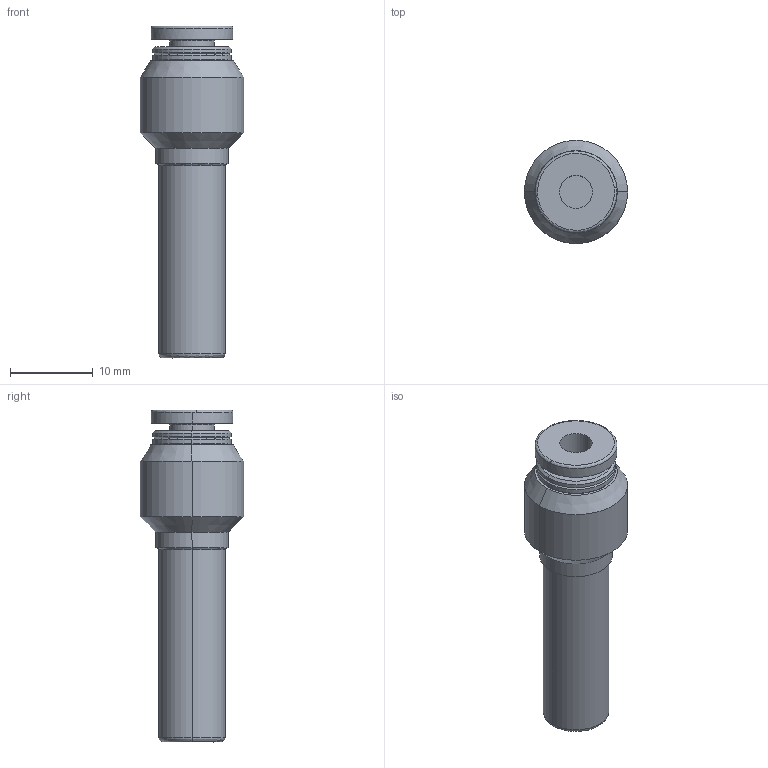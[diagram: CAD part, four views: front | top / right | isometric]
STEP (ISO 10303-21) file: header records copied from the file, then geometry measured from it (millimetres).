
FILE_DESCRIPTION (( 'STEP AP214' ), '1' );
FILE_NAME ('APGJ8-4.STEP', '2019-12-05T08:41:52', ( '微软用户' ), ( '微软中国' ), 'SwSTEP 2.0', 'SolidWorks 2016', '' );
FILE_SCHEMA (( 'AUTOMOTIVE_DESIGN' ));
Length unit declared in the file: millimetre
Products named in the file (1): APGJ8-4
Bounding box: 12.5 x 12.5 x 40.2 mm (x, y, z)
Volume: 2564.8 mm3; surface area: 1620.7 mm2
Topology: 1 solids, 1 shells, 45 faces, 94 edges, 56 vertices
Faces by surface type: cylinder 16, cone 14, bspline 8, plane 7
Entity records: 1727 total; most frequent: CARTESIAN_POINT 742, DIRECTION 214, ORIENTED_EDGE 188, EDGE_CURVE 94, AXIS2_PLACEMENT_3D 92, VERTEX_POINT 56, CIRCLE 54, EDGE_LOOP 50
